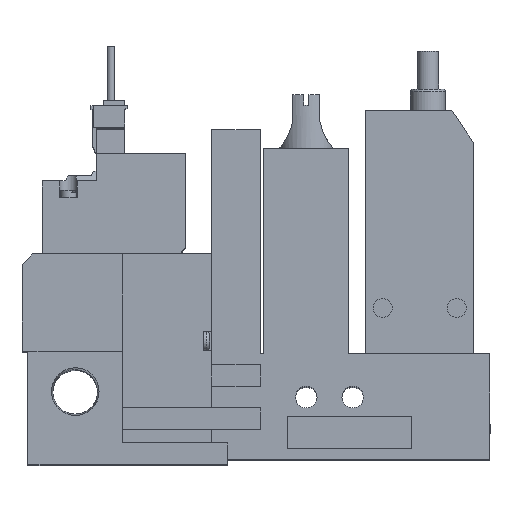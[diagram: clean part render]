
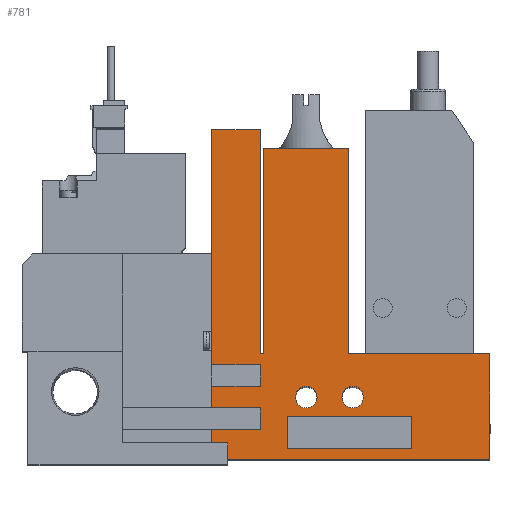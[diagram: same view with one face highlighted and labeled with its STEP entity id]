
A CAD part, top view. The second image highlights one B-rep face of the part: STEP entity #781.
In plain terms, the highlighted planar face has unit normal (0, 0, 1).
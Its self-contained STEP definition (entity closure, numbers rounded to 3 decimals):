
#781=ADVANCED_FACE('',(#1556,#1557,#1558,#1559),#1560,.T.);
#1556=FACE_OUTER_BOUND('',#2628,.T.);
#1557=FACE_BOUND('',#2629,.T.);
#1558=FACE_BOUND('',#2630,.T.);
#1559=FACE_BOUND('',#2631,.T.);
#1560=PLANE('',#2632);
#2628=EDGE_LOOP('',(#5361,#5362,#5363,#5364,#5365,#5366,#5367,#5368,#5369,#5370,#5371,#5372,#5373,#5374,#5375,#5376,#5377,#5378));
#2629=EDGE_LOOP('',(#5379,#5380,#5381,#5382));
#2630=EDGE_LOOP('',(#5383));
#2631=EDGE_LOOP('',(#5384));
#2632=AXIS2_PLACEMENT_3D('',#5385,#5386,#5387);
#5361=ORIENTED_EDGE('',*,*,#7408,.T.);
#5362=ORIENTED_EDGE('',*,*,#7409,.T.);
#5363=ORIENTED_EDGE('',*,*,#7410,.T.);
#5364=ORIENTED_EDGE('',*,*,#7411,.T.);
#5365=ORIENTED_EDGE('',*,*,#7412,.T.);
#5366=ORIENTED_EDGE('',*,*,#7413,.T.);
#5367=ORIENTED_EDGE('',*,*,#7414,.T.);
#5368=ORIENTED_EDGE('',*,*,#7415,.T.);
#5369=ORIENTED_EDGE('',*,*,#7416,.T.);
#5370=ORIENTED_EDGE('',*,*,#7417,.T.);
#5371=ORIENTED_EDGE('',*,*,#7367,.T.);
#5372=ORIENTED_EDGE('',*,*,#7385,.T.);
#5373=ORIENTED_EDGE('',*,*,#7418,.T.);
#5374=ORIENTED_EDGE('',*,*,#7394,.T.);
#5375=ORIENTED_EDGE('',*,*,#7407,.T.);
#5376=ORIENTED_EDGE('',*,*,#7419,.T.);
#5377=ORIENTED_EDGE('',*,*,#7420,.T.);
#5378=ORIENTED_EDGE('',*,*,#7421,.T.);
#5379=ORIENTED_EDGE('',*,*,#7422,.T.);
#5380=ORIENTED_EDGE('',*,*,#7423,.T.);
#5381=ORIENTED_EDGE('',*,*,#7424,.T.);
#5382=ORIENTED_EDGE('',*,*,#7376,.T.);
#5383=ORIENTED_EDGE('',*,*,#7425,.T.);
#5384=ORIENTED_EDGE('',*,*,#7426,.T.);
#5385=CARTESIAN_POINT('',(0.0,0.0,10.0));
#5386=DIRECTION('',(0.0,0.0,1.0));
#5387=DIRECTION('',(1.0,0.0,0.0));
#7367=EDGE_CURVE('',#8955,#8953,#8956,.T.);
#7376=EDGE_CURVE('',#8968,#8970,#8972,.T.);
#7385=EDGE_CURVE('',#8953,#8987,#8989,.T.);
#7394=EDGE_CURVE('',#9006,#9004,#9007,.T.);
#7407=EDGE_CURVE('',#9004,#9026,#9028,.T.);
#7408=EDGE_CURVE('',#9029,#9030,#9031,.T.);
#7409=EDGE_CURVE('',#9030,#9032,#9033,.T.);
#7410=EDGE_CURVE('',#9032,#9034,#9035,.T.);
#7411=EDGE_CURVE('',#9034,#9036,#9037,.T.);
#7412=EDGE_CURVE('',#9036,#9038,#9039,.T.);
#7413=EDGE_CURVE('',#9038,#9040,#9041,.T.);
#7414=EDGE_CURVE('',#9040,#9042,#9043,.T.);
#7415=EDGE_CURVE('',#9042,#9044,#9045,.T.);
#7416=EDGE_CURVE('',#9044,#9046,#9047,.T.);
#7417=EDGE_CURVE('',#9046,#8955,#9048,.T.);
#7418=EDGE_CURVE('',#8987,#9006,#9049,.T.);
#7419=EDGE_CURVE('',#9026,#9050,#9051,.T.);
#7420=EDGE_CURVE('',#9050,#9052,#9053,.T.);
#7421=EDGE_CURVE('',#9052,#9029,#9054,.T.);
#7422=EDGE_CURVE('',#8970,#9055,#9056,.T.);
#7423=EDGE_CURVE('',#9055,#9057,#9058,.T.);
#7424=EDGE_CURVE('',#9057,#8968,#9059,.T.);
#7425=EDGE_CURVE('',#9060,#9060,#9061,.T.);
#7426=EDGE_CURVE('',#9062,#9062,#9063,.T.);
#8953=VERTEX_POINT('',#11500);
#8955=VERTEX_POINT('',#11503);
#8956=LINE('',#11504,#11505);
#8968=VERTEX_POINT('',#11522);
#8970=VERTEX_POINT('',#11525);
#8972=LINE('',#11528,#11529);
#8987=VERTEX_POINT('',#11549);
#8989=LINE('',#11552,#11553);
#9004=VERTEX_POINT('',#11575);
#9006=VERTEX_POINT('',#11578);
#9007=LINE('',#11579,#11580);
#9026=VERTEX_POINT('',#11610);
#9028=LINE('',#11613,#11614);
#9029=VERTEX_POINT('',#11615);
#9030=VERTEX_POINT('',#11616);
#9031=LINE('',#11617,#11618);
#9032=VERTEX_POINT('',#11619);
#9033=LINE('',#11620,#11621);
#9034=VERTEX_POINT('',#11622);
#9035=LINE('',#11623,#11624);
#9036=VERTEX_POINT('',#11625);
#9037=LINE('',#11626,#11627);
#9038=VERTEX_POINT('',#11628);
#9039=LINE('',#11629,#11630);
#9040=VERTEX_POINT('',#11631);
#9041=LINE('',#11632,#11633);
#9042=VERTEX_POINT('',#11634);
#9043=LINE('',#11635,#11636);
#9044=VERTEX_POINT('',#11637);
#9045=LINE('',#11638,#11639);
#9046=VERTEX_POINT('',#11640);
#9047=LINE('',#11641,#11642);
#9048=LINE('',#11643,#11644);
#9049=LINE('',#11645,#11646);
#9050=VERTEX_POINT('',#11647);
#9051=LINE('',#11648,#11649);
#9052=VERTEX_POINT('',#11650);
#9053=LINE('',#11651,#11652);
#9054=LINE('',#11653,#11654);
#9055=VERTEX_POINT('',#11655);
#9056=LINE('',#11656,#11657);
#9057=VERTEX_POINT('',#11658);
#9058=LINE('',#11659,#11660);
#9059=LINE('',#11661,#11662);
#9060=VERTEX_POINT('',#11663);
#9061=CIRCLE('',#11664,2.0);
#9062=VERTEX_POINT('',#11665);
#9063=CIRCLE('',#11666,2.0);
#11500=CARTESIAN_POINT('',(86.6,19.5,10.0));
#11503=CARTESIAN_POINT('',(86.6,0.0,10.0));
#11504=CARTESIAN_POINT('',(86.6,0.0,10.0));
#11505=VECTOR('',#13534,1.0);
#11522=CARTESIAN_POINT('',(72.1,2.0,10.0));
#11525=CARTESIAN_POINT('',(49.1,2.0,10.0));
#11528=CARTESIAN_POINT('',(0.0,2.0,10.0));
#11529=VECTOR('',#13545,1.0);
#11549=CARTESIAN_POINT('',(60.45,19.5,10.0));
#11552=CARTESIAN_POINT('',(86.6,19.5,10.0));
#11553=VECTOR('',#13558,1.0);
#11575=CARTESIAN_POINT('',(44.75,57.5,10.0));
#11578=CARTESIAN_POINT('',(60.45,57.5,10.0));
#11579=CARTESIAN_POINT('',(60.45,57.5,10.0));
#11580=VECTOR('',#13567,1.0);
#11610=CARTESIAN_POINT('',(44.75,19.5,10.0));
#11613=CARTESIAN_POINT('',(44.75,57.5,10.0));
#11614=VECTOR('',#13580,1.0);
#11615=CARTESIAN_POINT('',(35.1,61.0,10.0));
#11616=CARTESIAN_POINT('',(35.1,17.5,10.0));
#11617=CARTESIAN_POINT('',(35.1,61.0,10.0));
#11618=VECTOR('',#13581,1.0);
#11619=CARTESIAN_POINT('',(44.1,17.5,10.0));
#11620=CARTESIAN_POINT('',(0.0,17.5,10.0));
#11621=VECTOR('',#13582,1.0);
#11622=CARTESIAN_POINT('',(44.1,13.5,10.0));
#11623=CARTESIAN_POINT('',(44.1,0.0,10.0));
#11624=VECTOR('',#13583,1.0);
#11625=CARTESIAN_POINT('',(35.1,13.5,10.0));
#11626=CARTESIAN_POINT('',(0.0,13.5,10.0));
#11627=VECTOR('',#13584,1.0);
#11628=CARTESIAN_POINT('',(35.1,9.5,10.0));
#11629=CARTESIAN_POINT('',(35.1,0.0,10.0));
#11630=VECTOR('',#13585,1.0);
#11631=CARTESIAN_POINT('',(44.1,9.5,10.0));
#11632=CARTESIAN_POINT('',(0.0,9.5,10.0));
#11633=VECTOR('',#13586,1.0);
#11634=CARTESIAN_POINT('',(44.1,5.5,10.0));
#11635=CARTESIAN_POINT('',(44.1,0.0,10.0));
#11636=VECTOR('',#13587,1.0);
#11637=CARTESIAN_POINT('',(35.1,5.5,10.0));
#11638=CARTESIAN_POINT('',(0.0,5.5,10.0));
#11639=VECTOR('',#13588,1.0);
#11640=CARTESIAN_POINT('',(35.1,0.0,10.0));
#11641=CARTESIAN_POINT('',(35.1,0.0,10.0));
#11642=VECTOR('',#13589,1.0);
#11643=CARTESIAN_POINT('',(18.6,0.0,10.0));
#11644=VECTOR('',#13590,1.0);
#11645=CARTESIAN_POINT('',(60.45,19.5,10.0));
#11646=VECTOR('',#13591,1.0);
#11647=CARTESIAN_POINT('',(44.1,19.5,10.0));
#11648=CARTESIAN_POINT('',(44.75,19.5,10.0));
#11649=VECTOR('',#13592,1.0);
#11650=CARTESIAN_POINT('',(44.1,61.0,10.0));
#11651=CARTESIAN_POINT('',(44.1,19.5,10.0));
#11652=VECTOR('',#13593,1.0);
#11653=CARTESIAN_POINT('',(44.1,61.0,10.0));
#11654=VECTOR('',#13594,1.0);
#11655=CARTESIAN_POINT('',(49.1,8.0,10.0));
#11656=CARTESIAN_POINT('',(49.1,0.0,10.0));
#11657=VECTOR('',#13595,1.0);
#11658=CARTESIAN_POINT('',(72.1,8.0,10.0));
#11659=CARTESIAN_POINT('',(0.0,8.0,10.0));
#11660=VECTOR('',#13596,1.0);
#11661=CARTESIAN_POINT('',(72.1,0.0,10.0));
#11662=VECTOR('',#13597,1.0);
#11663=CARTESIAN_POINT('',(54.6,11.5,10.0));
#11664=AXIS2_PLACEMENT_3D('',#13598,#13599,#13600);
#11665=CARTESIAN_POINT('',(63.2,11.5,10.0));
#11666=AXIS2_PLACEMENT_3D('',#13601,#13602,#13603);
#13534=DIRECTION('',(0.0,1.0,0.0));
#13545=DIRECTION('',(-1.0,0.0,0.0));
#13558=DIRECTION('',(-1.0,0.0,0.0));
#13567=DIRECTION('',(-1.0,0.0,0.0));
#13580=DIRECTION('',(0.0,-1.0,0.0));
#13581=DIRECTION('',(0.0,-1.0,0.0));
#13582=DIRECTION('',(1.0,0.0,0.0));
#13583=DIRECTION('',(0.0,-1.0,0.0));
#13584=DIRECTION('',(-1.0,0.0,0.0));
#13585=DIRECTION('',(0.0,-1.0,0.0));
#13586=DIRECTION('',(1.0,0.0,0.0));
#13587=DIRECTION('',(0.0,-1.0,0.0));
#13588=DIRECTION('',(-1.0,0.0,0.0));
#13589=DIRECTION('',(0.0,-1.0,0.0));
#13590=DIRECTION('',(1.0,0.0,0.0));
#13591=DIRECTION('',(0.0,1.0,0.0));
#13592=DIRECTION('',(-1.0,0.0,0.0));
#13593=DIRECTION('',(0.0,1.0,0.0));
#13594=DIRECTION('',(-1.0,0.0,0.0));
#13595=DIRECTION('',(0.0,1.0,0.0));
#13596=DIRECTION('',(1.0,0.0,0.0));
#13597=DIRECTION('',(0.0,-1.0,0.0));
#13598=CARTESIAN_POINT('',(52.6,11.5,10.0));
#13599=DIRECTION('',(0.0,0.0,-1.0));
#13600=DIRECTION('',(1.0,0.0,0.0));
#13601=CARTESIAN_POINT('',(61.2,11.5,10.0));
#13602=DIRECTION('',(0.0,0.0,-1.0));
#13603=DIRECTION('',(1.0,0.0,0.0));
